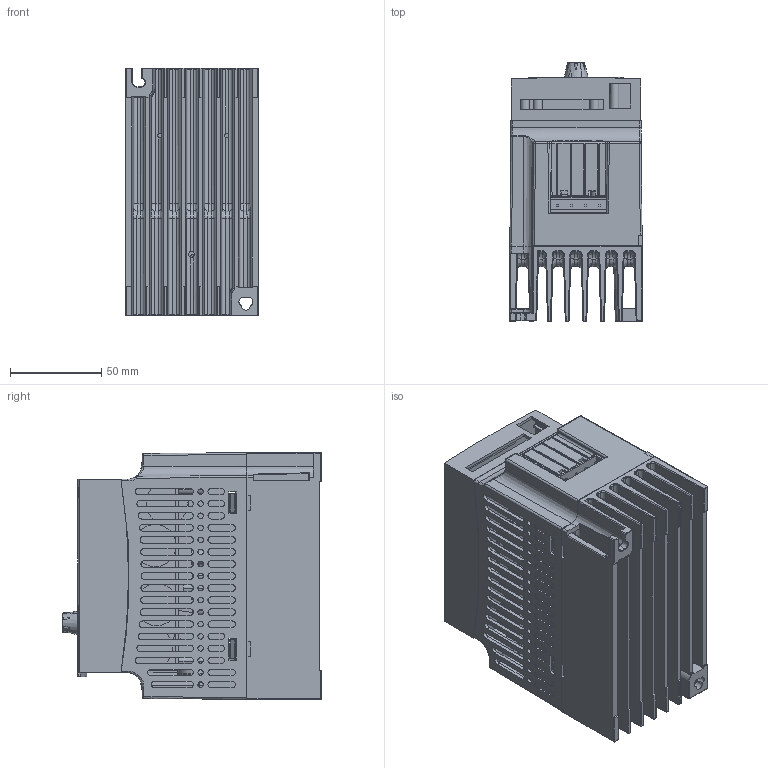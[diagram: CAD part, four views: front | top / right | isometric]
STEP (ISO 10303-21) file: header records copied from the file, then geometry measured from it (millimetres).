
FILE_DESCRIPTION((''),'2;1');
FILE_NAME('S800-ASM_ASM','2023-08-03T16:58:23',('ZhangJF'),(''),'CREO PARAMETRIC BY PTC INC, 2019010','CREO PARAMETRIC BY PTC INC, 2019010','');
FILE_SCHEMA(('CONFIG_CONTROL_DESIGN','SHAPE_APPEARANCE_LAYERS_GROUPS'));
Products named in the file (34): S800-POW-DC52-3-4; S800-POW-PCB; S800-POW-DC2-DC65; S800-POW-DC15; S800-POW-DC456; S800-POW-DVR1; S800-POW-DVR2; S800-POW-DQ1; S800-POW-DTB12; S800-POW-DT1; S800-POW-DJ1; S800-POW-DC21; S800-POW-DC55-73; S800-POW-DC200; S800-POW-DD4; S800-POW-PE1; S800-SPM; M3X10; S800-POWER-ASM_ASM; S800-CAP-CC86; S800-CAP-BOARD; S800-CAP-CR5; S800-CAP-CRY1; S800-CAP-ASM_ASM; SIDE_COVER; S800-FRONT-COVER; S800-FRONT-ASM_ASM; AL-FRAME; GANGZHUZI; DIANRONGZHICHENGBAN; DIANRONGBAN; S800-SANREQI; XUANNIU; S800-ASM_ASM
Assembly tree (44 placements, depth 3):
  S800-ASM_ASM
    S800-POWER-ASM_ASM
      S800-POW-DC52-3-4  x3
      S800-POW-PCB
      S800-POW-DC2-DC65  x2
      S800-POW-DC15
      S800-POW-DC456  x3
      S800-POW-DVR1
      S800-POW-DVR2
      S800-POW-DQ1
      S800-POW-DTB12  x2
      S800-POW-DT1
      S800-POW-DJ1
      S800-POW-DC21
      S800-POW-DC55-73  x2
      S800-POW-DC200
      S800-POW-DD4
      S800-POW-PE1
      S800-SPM
      M3X10  x2
    S800-CAP-ASM_ASM
      S800-CAP-CC86  x4
      S800-CAP-BOARD
      S800-CAP-CR5
      S800-CAP-CRY1
    SIDE_COVER
    S800-FRONT-ASM_ASM
      S800-FRONT-COVER
    AL-FRAME
    GANGZHUZI
    DIANRONGZHICHENGBAN
    DIANRONGBAN
    S800-SANREQI
    XUANNIU
Bounding box: 72.68 x 141.46 x 135.28 mm (x, y, z)
Volume: 452080 mm3; surface area: 289906.2 mm2
Topology: 43 solids, 43 shells, 3514 faces, 9005 edges, 5791 vertices
Faces by surface type: plane 2209, cylinder 964, bspline 140, extrusion 61, torus 54, sphere 44, cone 42
Entity records: 117969 total; most frequent: CARTESIAN_POINT 37435, ORIENTED_EDGE 17164, DIRECTION 15131, EDGE_CURVE 8582, VECTOR 5835, LINE 5774, VERTEX_POINT 5523, AXIS2_PLACEMENT_3D 4648
